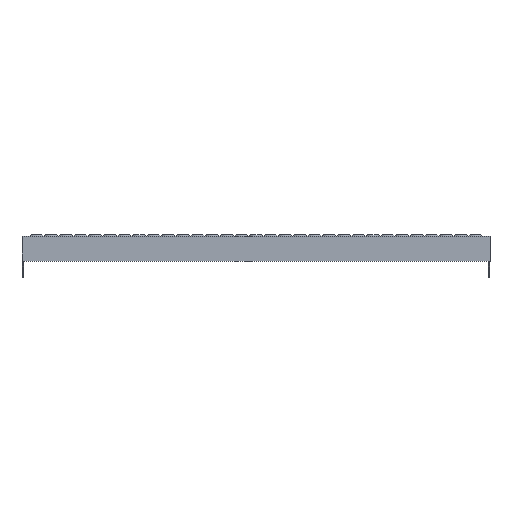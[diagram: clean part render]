
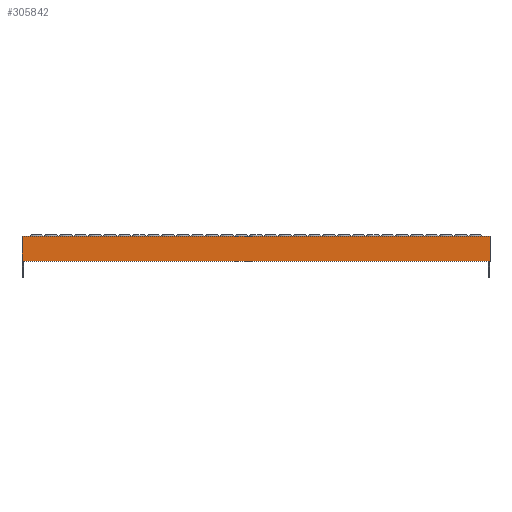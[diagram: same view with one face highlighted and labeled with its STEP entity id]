
A CAD part, front view. The second image highlights one B-rep face of the part: STEP entity #305842.
In plain terms, the highlighted planar face has unit normal (0, -1, 0).
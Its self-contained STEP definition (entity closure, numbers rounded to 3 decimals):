
#305842 = ADVANCED_FACE('',(#305843),#305857,.T.);
#305843 = FACE_BOUND('',#305844,.T.);
#305844 = EDGE_LOOP('',(#305845,#305868,#305884,#305900));
#305845 = ORIENTED_EDGE('',*,*,#305846,.T.);
#305846 = EDGE_CURVE('',#305847,#305849,#305851,.T.);
#305847 = VERTEX_POINT('',#305848);
#305848 = CARTESIAN_POINT('',(6800.,8770.,
    0.));
#305849 = VERTEX_POINT('',#305850);
#305850 = CARTESIAN_POINT('',(6000.,8770.,
    0.));
#305851 = SURFACE_CURVE('',#305852,(#305856),.PCURVE_S1.);
#305852 = LINE('',#305853,#305854);
#305853 = CARTESIAN_POINT('',(6800.,8770.,
    0.));
#305854 = VECTOR('',#305855,1.);
#305855 = DIRECTION('',(-1.,0.,0.));
#305856 = PCURVE('',#305857,#305862);
#305857 = PLANE('',#305858);
#305858 = AXIS2_PLACEMENT_3D('',#305859,#305860,#305861);
#305859 = CARTESIAN_POINT('',(6400.,8770.,
    -21.25));
#305860 = DIRECTION('',(0.,-1.,0.));
#305861 = DIRECTION('',(0.,0.,-1.));
#305862 = DEFINITIONAL_REPRESENTATION('',(#305863),#305867);
#305863 = LINE('',#305864,#305865);
#305864 = CARTESIAN_POINT('',(-21.25,400.));
#305865 = VECTOR('',#305866,1.);
#305866 = DIRECTION('',(0.,-1.));
#305867 = ( GEOMETRIC_REPRESENTATION_CONTEXT(2) 
PARAMETRIC_REPRESENTATION_CONTEXT() REPRESENTATION_CONTEXT('2D SPACE',''
  ) );
#305868 = ORIENTED_EDGE('',*,*,#305869,.T.);
#305869 = EDGE_CURVE('',#305849,#305870,#305872,.T.);
#305870 = VERTEX_POINT('',#305871);
#305871 = CARTESIAN_POINT('',(6000.,8770.,-42.5)
  );
#305872 = SURFACE_CURVE('',#305873,(#305877),.PCURVE_S1.);
#305873 = LINE('',#305874,#305875);
#305874 = CARTESIAN_POINT('',(6000.,8770.,
    0.));
#305875 = VECTOR('',#305876,1.);
#305876 = DIRECTION('',(0.,0.,-1.));
#305877 = PCURVE('',#305857,#305878);
#305878 = DEFINITIONAL_REPRESENTATION('',(#305879),#305883);
#305879 = LINE('',#305880,#305881);
#305880 = CARTESIAN_POINT('',(-21.25,-400.));
#305881 = VECTOR('',#305882,1.);
#305882 = DIRECTION('',(1.,0.));
#305883 = ( GEOMETRIC_REPRESENTATION_CONTEXT(2) 
PARAMETRIC_REPRESENTATION_CONTEXT() REPRESENTATION_CONTEXT('2D SPACE',''
  ) );
#305884 = ORIENTED_EDGE('',*,*,#305885,.T.);
#305885 = EDGE_CURVE('',#305870,#305886,#305888,.T.);
#305886 = VERTEX_POINT('',#305887);
#305887 = CARTESIAN_POINT('',(6800.,8770.,
    -42.5));
#305888 = SURFACE_CURVE('',#305889,(#305893),.PCURVE_S1.);
#305889 = LINE('',#305890,#305891);
#305890 = CARTESIAN_POINT('',(6000.,8770.,-42.5)
  );
#305891 = VECTOR('',#305892,1.);
#305892 = DIRECTION('',(1.,0.,0.));
#305893 = PCURVE('',#305857,#305894);
#305894 = DEFINITIONAL_REPRESENTATION('',(#305895),#305899);
#305895 = LINE('',#305896,#305897);
#305896 = CARTESIAN_POINT('',(21.25,-400.));
#305897 = VECTOR('',#305898,1.);
#305898 = DIRECTION('',(0.,1.));
#305899 = ( GEOMETRIC_REPRESENTATION_CONTEXT(2) 
PARAMETRIC_REPRESENTATION_CONTEXT() REPRESENTATION_CONTEXT('2D SPACE',''
  ) );
#305900 = ORIENTED_EDGE('',*,*,#305901,.T.);
#305901 = EDGE_CURVE('',#305886,#305847,#305902,.T.);
#305902 = SURFACE_CURVE('',#305903,(#305907),.PCURVE_S1.);
#305903 = LINE('',#305904,#305905);
#305904 = CARTESIAN_POINT('',(6800.,8770.,
    -42.5));
#305905 = VECTOR('',#305906,1.);
#305906 = DIRECTION('',(0.,0.,1.));
#305907 = PCURVE('',#305857,#305908);
#305908 = DEFINITIONAL_REPRESENTATION('',(#305909),#305913);
#305909 = LINE('',#305910,#305911);
#305910 = CARTESIAN_POINT('',(21.25,400.));
#305911 = VECTOR('',#305912,1.);
#305912 = DIRECTION('',(-1.,0.));
#305913 = ( GEOMETRIC_REPRESENTATION_CONTEXT(2) 
PARAMETRIC_REPRESENTATION_CONTEXT() REPRESENTATION_CONTEXT('2D SPACE',''
  ) );
